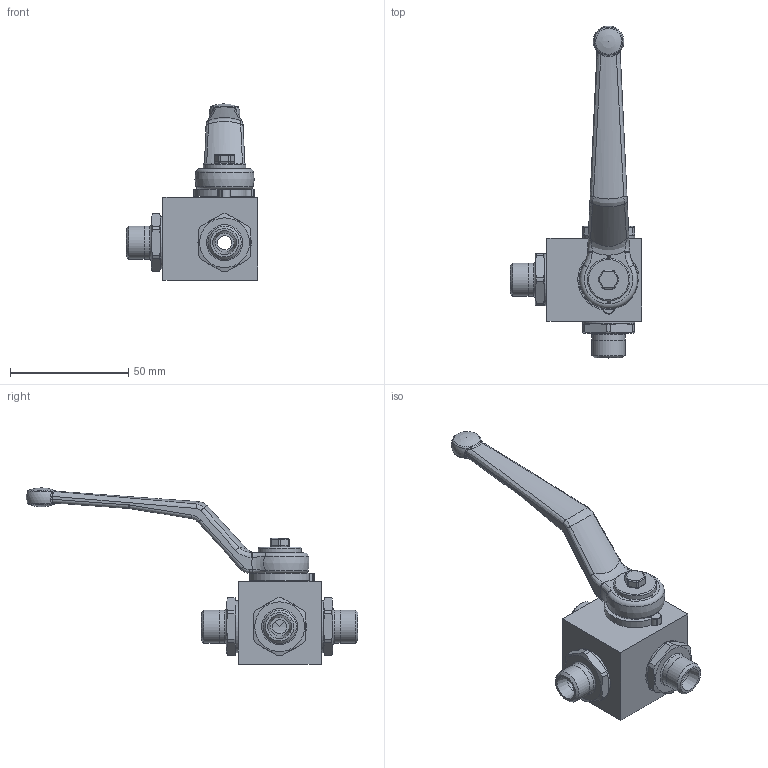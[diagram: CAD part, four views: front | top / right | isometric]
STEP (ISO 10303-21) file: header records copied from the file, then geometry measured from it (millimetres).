
FILE_DESCRIPTION( ( 'Unknown' ), '1' );
FILE_NAME( 'H:/PISTER/3D-MODELLE/BK3-Edelstahl stp/BK3-Edelst DN6 8L.stp', 'Unknown', ( 'Unknown' ), ( 'Unknown' ), 'PSStep 14.0', 'Unknown', ' ' );
FILE_SCHEMA( ( 'AUTOMOTIVE_DESIGN { 1 0 10303 214 1 1 1 1 }' ) );
Length unit declared in the file: millimetre
Products named in the file (11): Assem1; 56-032-337-oa5; 09-09-003; 58-28740-16-oa6; 58-0440-009; 06-008-007-oa8; 04-006-029-oa9; 04-006-029-oa10; 04-006-029-oa11; Griff_SW9; 01-008-020-oa12
Assembly tree (10 placements, depth 2):
  Assem1
    56-032-337-oa5
    09-09-003
    58-28740-16-oa6
    58-0440-009
    06-008-007-oa8
    04-006-029-oa9
    04-006-029-oa10
    04-006-029-oa11
    Griff_SW9
    01-008-020-oa12
Bounding box: 55.5 x 140 x 74.4 mm (x, y, z)
Volume: 55635.9 mm3; surface area: 25636 mm2
Topology: 10 solids, 10 shells, 371 faces, 917 edges, 575 vertices
Faces by surface type: cylinder 128, plane 123, cone 43, torus 37, bspline 36, sphere 4
Full cylindrical faces by diameter (mm): 4.134 x1, 4.98 x1, 5 x1, 5.8 x1, 6 x3, 7 x1, 8 x3, 14 x8, 17.1 x1, 18 x1, 18.376 x1, 18.5 x1, 20 x1, 20.3 x1, 21 x4, 22 x3, 22.5 x3
Entity records: 15268 total; most frequent: CARTESIAN_POINT 4040, DIRECTION 1683, ORIENTED_EDGE 1608, EDGE_CURVE 804, AXIS2_PLACEMENT_3D 694, VERTEX_POINT 536, EDGE_LOOP 472, FACE_OUTER_BOUND 419
